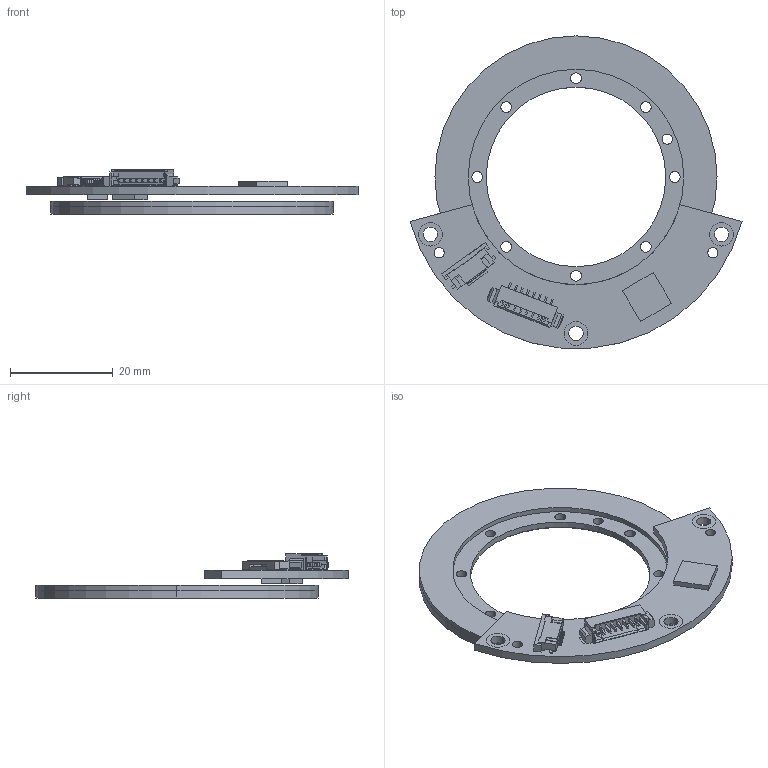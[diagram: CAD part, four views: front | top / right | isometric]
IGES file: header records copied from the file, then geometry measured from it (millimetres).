
Start section: SolidWorks IGES file using analytic representation for surfaces
Global section: file name: C:\Users\Administrator\Desktop\埻唳蜊\35\eCoder35.IGS,15; native system: HSolidWorks 2021; preprocessor: SolidWorks 2021; author: ZERO; date: 221228.172701; units: millimetre
Bounding box: 64.72 x 60.87 x 8.6 mm (x, y, z)
Volume: 4704.5 mm3; surface area: 8450.6 mm2
Topology: 19 solids, 19 shells, 788 faces, 2143 edges, 1414 vertices
Faces by surface type: plane 668, revolution 120
